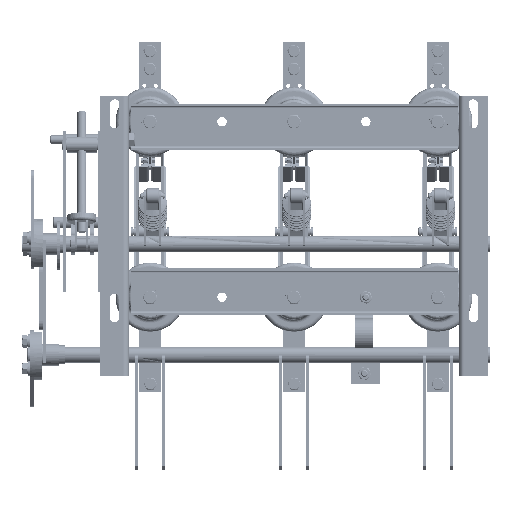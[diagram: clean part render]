
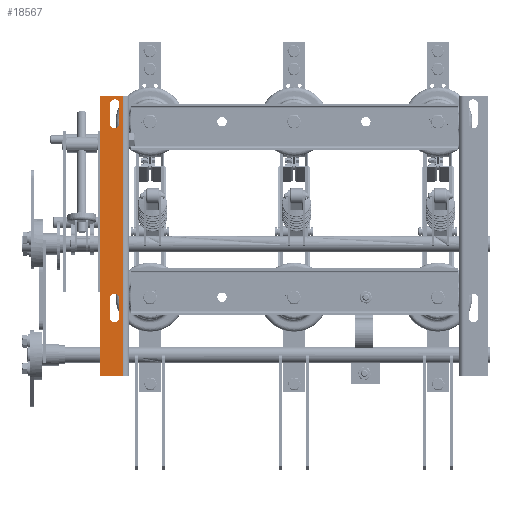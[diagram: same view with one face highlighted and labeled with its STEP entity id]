
A CAD part, front view. The second image highlights one B-rep face of the part: STEP entity #18567.
In plain terms, the highlighted planar face has unit normal (0, -1, 0).
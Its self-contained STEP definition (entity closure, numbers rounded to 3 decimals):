
#3470 = CARTESIAN_POINT ( 'NONE',  ( -252.691, 0.001, -6.014 ) ) ;
#5213 = ORIENTED_EDGE ( 'NONE', *, *, #70393, .T. ) ;
#5840 = DIRECTION ( 'NONE',  ( 0., 0., -1. ) ) ;
#6037 = CIRCLE ( 'NONE', #11414, 6.5 ) ;
#7170 = EDGE_CURVE ( 'NONE', #74287, #38235, #50148, .T. ) ;
#7355 = VERTEX_POINT ( 'NONE', #85066 ) ;
#9627 = PLANE ( 'NONE',  #88804 ) ;
#9687 = DIRECTION ( 'NONE',  ( 0., 1., 0. ) ) ;
#11359 = CARTESIAN_POINT ( 'NONE',  ( -265.691, 0.001, -33.014 ) ) ;
#11414 = AXIS2_PLACEMENT_3D ( 'NONE', #55110, #127274, #65485 ) ;
#13571 = VERTEX_POINT ( 'NONE', #89692 ) ;
#14437 = EDGE_CURVE ( 'NONE', #98435, #77237, #81007, .T. ) ;
#17052 = CIRCLE ( 'NONE', #44761, 6.5 ) ;
#17413 = VECTOR ( 'NONE', #29986, 1000. ) ;
#18315 = LINE ( 'NONE', #68949, #94211 ) ;
#18567 = ADVANCED_FACE ( 'NONE', ( #57599, #26981, #109285 ), #9627, .F. ) ;
#20136 = AXIS2_PLACEMENT_3D ( 'NONE', #45985, #118215, #56360 ) ;
#26514 = VERTEX_POINT ( 'NONE', #52957 ) ;
#26981 = FACE_BOUND ( 'NONE', #64492, .T. ) ;
#27520 = CARTESIAN_POINT ( 'NONE',  ( -259.191, 0.001, 236.986 ) ) ;
#29986 = DIRECTION ( 'NONE',  ( -1., 0., 0. ) ) ;
#30419 = LINE ( 'NONE', #108923, #54555 ) ;
#32381 = DIRECTION ( 'NONE',  ( 0., 0., 1. ) ) ;
#34539 = CARTESIAN_POINT ( 'NONE',  ( -252.691, 0.001, 263.986 ) ) ;
#37029 = CARTESIAN_POINT ( 'NONE',  ( -252.691, 0.001, -6.014 ) ) ;
#37870 = DIRECTION ( 'NONE',  ( 1., 0., 0. ) ) ;
#38235 = VERTEX_POINT ( 'NONE', #116267 ) ;
#40762 = DIRECTION ( 'NONE',  ( 0., 1., 0. ) ) ;
#41659 = VERTEX_POINT ( 'NONE', #11359 ) ;
#42700 = CARTESIAN_POINT ( 'NONE',  ( -265.691, 0.001, -33.014 ) ) ;
#42973 = EDGE_CURVE ( 'NONE', #68681, #95623, #60338, .T. ) ;
#44761 = AXIS2_PLACEMENT_3D ( 'NONE', #71485, #9687, #81821 ) ;
#45985 = CARTESIAN_POINT ( 'NONE',  ( -259.191, 0.001, -6.014 ) ) ;
#46002 = ORIENTED_EDGE ( 'NONE', *, *, #57053, .T. ) ;
#48267 = ORIENTED_EDGE ( 'NONE', *, *, #125008, .T. ) ;
#50148 = LINE ( 'NONE', #102333, #108368 ) ;
#52460 = EDGE_LOOP ( 'NONE', ( #101034, #125908, #102190, #125290 ) ) ;
#52957 = CARTESIAN_POINT ( 'NONE',  ( -265.691, 0.001, 263.986 ) ) ;
#54555 = VECTOR ( 'NONE', #129609, 1000. ) ;
#55110 = CARTESIAN_POINT ( 'NONE',  ( -259.191, 0.001, 263.986 ) ) ;
#56360 = DIRECTION ( 'NONE',  ( -1., 0., 0. ) ) ;
#57053 = EDGE_CURVE ( 'NONE', #95623, #100005, #104895, .T. ) ;
#57599 = FACE_OUTER_BOUND ( 'NONE', #52460, .T. ) ;
#58706 = ORIENTED_EDGE ( 'NONE', *, *, #85284, .T. ) ;
#60338 = CIRCLE ( 'NONE', #20136, 6.5 ) ;
#64293 = VECTOR ( 'NONE', #32381, 1000. ) ;
#64492 = EDGE_LOOP ( 'NONE', ( #58706, #126329, #46002, #5213 ) ) ;
#65485 = DIRECTION ( 'NONE',  ( -1., 0., 0. ) ) ;
#66863 = ORIENTED_EDGE ( 'NONE', *, *, #131478, .T. ) ;
#68681 = VERTEX_POINT ( 'NONE', #105717 ) ;
#68949 = CARTESIAN_POINT ( 'NONE',  ( -279.191, 0.001, 275.486 ) ) ;
#70393 = EDGE_CURVE ( 'NONE', #100005, #41659, #17052, .T. ) ;
#71485 = CARTESIAN_POINT ( 'NONE',  ( -259.191, 0.001, -33.014 ) ) ;
#74287 = VERTEX_POINT ( 'NONE', #90210 ) ;
#77237 = VERTEX_POINT ( 'NONE', #112492 ) ;
#77241 = CARTESIAN_POINT ( 'NONE',  ( -246.987, 0.001, -114.514 ) ) ;
#80140 = ORIENTED_EDGE ( 'NONE', *, *, #125572, .T. ) ;
#81007 = LINE ( 'NONE', #34539, #128020 ) ;
#81821 = DIRECTION ( 'NONE',  ( 1., 0., 0. ) ) ;
#85066 = CARTESIAN_POINT ( 'NONE',  ( -265.691, 0.001, 236.986 ) ) ;
#85200 = ORIENTED_EDGE ( 'NONE', *, *, #14437, .T. ) ;
#85284 = EDGE_CURVE ( 'NONE', #41659, #68681, #95003, .T. ) ;
#85572 = EDGE_CURVE ( 'NONE', #120000, #74287, #123981, .T. ) ;
#85594 = CIRCLE ( 'NONE', #125989, 6.5 ) ;
#87600 = DIRECTION ( 'NONE',  ( 0., 0., 1. ) ) ;
#88804 = AXIS2_PLACEMENT_3D ( 'NONE', #133188, #40762, #112972 ) ;
#89692 = CARTESIAN_POINT ( 'NONE',  ( -246.987, 0.001, 275.486 ) ) ;
#90210 = CARTESIAN_POINT ( 'NONE',  ( -279.191, 0.001, -114.514 ) ) ;
#91906 = DIRECTION ( 'NONE',  ( 0., 0., 1. ) ) ;
#94211 = VECTOR ( 'NONE', #110048, 1000. ) ;
#95003 = LINE ( 'NONE', #42700, #64293 ) ;
#95623 = VERTEX_POINT ( 'NONE', #3470 ) ;
#97032 = LINE ( 'NONE', #77241, #117959 ) ;
#98435 = VERTEX_POINT ( 'NONE', #118228 ) ;
#99711 = DIRECTION ( 'NONE',  ( 0., 1., 0. ) ) ;
#100005 = VERTEX_POINT ( 'NONE', #133893 ) ;
#101034 = ORIENTED_EDGE ( 'NONE', *, *, #103661, .T. ) ;
#102170 = CARTESIAN_POINT ( 'NONE',  ( -246.987, 0.001, -114.514 ) ) ;
#102190 = ORIENTED_EDGE ( 'NONE', *, *, #7170, .F. ) ;
#102333 = CARTESIAN_POINT ( 'NONE',  ( -279.191, 0.001, -114.514 ) ) ;
#103661 = EDGE_CURVE ( 'NONE', #120000, #13571, #97032, .T. ) ;
#104895 = LINE ( 'NONE', #37029, #129016 ) ;
#105717 = CARTESIAN_POINT ( 'NONE',  ( -265.691, 0.001, -6.014 ) ) ;
#106723 = DIRECTION ( 'NONE',  ( 0., 0., -1. ) ) ;
#108368 = VECTOR ( 'NONE', #91906, 1000. ) ;
#108923 = CARTESIAN_POINT ( 'NONE',  ( -265.691, 0.001, 236.986 ) ) ;
#109285 = FACE_BOUND ( 'NONE', #117248, .T. ) ;
#110048 = DIRECTION ( 'NONE',  ( 1., 0., 0. ) ) ;
#112492 = CARTESIAN_POINT ( 'NONE',  ( -252.691, 0.001, 236.986 ) ) ;
#112972 = DIRECTION ( 'NONE',  ( 0., 0., 1. ) ) ;
#116267 = CARTESIAN_POINT ( 'NONE',  ( -279.191, 0.001, 275.486 ) ) ;
#117248 = EDGE_LOOP ( 'NONE', ( #80140, #85200, #66863, #48267 ) ) ;
#117959 = VECTOR ( 'NONE', #87600, 1000. ) ;
#118215 = DIRECTION ( 'NONE',  ( 0., 1., 0. ) ) ;
#118228 = CARTESIAN_POINT ( 'NONE',  ( -252.691, 0.001, 263.986 ) ) ;
#120000 = VERTEX_POINT ( 'NONE', #133728 ) ;
#120848 = EDGE_CURVE ( 'NONE', #38235, #13571, #18315, .T. ) ;
#123981 = LINE ( 'NONE', #102170, #17413 ) ;
#125008 = EDGE_CURVE ( 'NONE', #7355, #26514, #30419, .T. ) ;
#125290 = ORIENTED_EDGE ( 'NONE', *, *, #85572, .F. ) ;
#125572 = EDGE_CURVE ( 'NONE', #26514, #98435, #6037, .T. ) ;
#125908 = ORIENTED_EDGE ( 'NONE', *, *, #120848, .F. ) ;
#125989 = AXIS2_PLACEMENT_3D ( 'NONE', #27520, #99711, #37870 ) ;
#126329 = ORIENTED_EDGE ( 'NONE', *, *, #42973, .T. ) ;
#127274 = DIRECTION ( 'NONE',  ( 0., 1., 0. ) ) ;
#128020 = VECTOR ( 'NONE', #106723, 1000. ) ;
#129016 = VECTOR ( 'NONE', #5840, 1000. ) ;
#129609 = DIRECTION ( 'NONE',  ( 0., 0., 1. ) ) ;
#131478 = EDGE_CURVE ( 'NONE', #77237, #7355, #85594, .T. ) ;
#133188 = CARTESIAN_POINT ( 'NONE',  ( -227.691, 0.001, 90.486 ) ) ;
#133728 = CARTESIAN_POINT ( 'NONE',  ( -246.987, 0.001, -114.514 ) ) ;
#133893 = CARTESIAN_POINT ( 'NONE',  ( -252.691, 0.001, -33.014 ) ) ;
